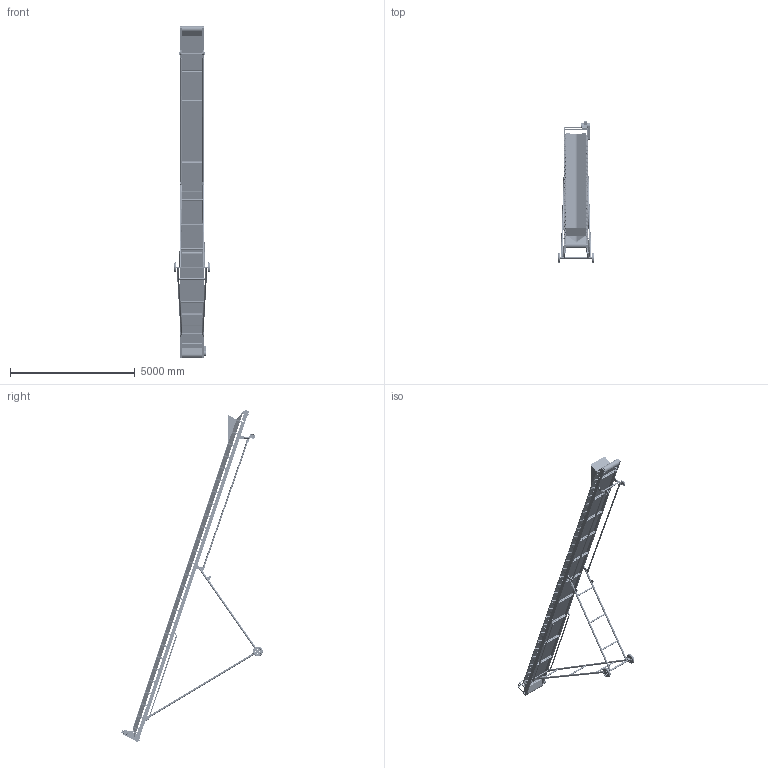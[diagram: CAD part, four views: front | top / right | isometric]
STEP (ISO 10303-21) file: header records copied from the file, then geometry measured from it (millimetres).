
FILE_DESCRIPTION(/* description */ (''),/* implementation_level */ '2;1');
FILE_NAME(/* name */ 'beltconveyor_a005_w820_l14000.stp',/* time_stamp */ '2024-12-14T22:22:47+08:00',/* author */ (''),/* organization */ (''),/* preprocessor_version */ 'ST-DEVELOPER v16.7',/* originating_system */ 'SIEMENS PLM Software NX 12.0',/* authorisation */ '');
FILE_SCHEMA (('AUTOMOTIVE_DESIGN { 1 0 10303 214 3 1 1 1 }'));
Products named in the file (64): 2510117-202; 2510117-203; 2510117-101-B; 2510117-205; 2510117-204; 2510117-106; 2510117-259; 2510117-261; 2510117-260; 2510117-264_Default_As Machined_; 2510117-265; AST_Bearings_UCT206; 2510117-162; 24210-30206_01; 24210-30206_02; 2510117-301; 2510117-257; 0027483_02; 0027483_09; 0027483_06; 0027483_07; 0027483_01; 0027483_08; 0027483_03; 0027483_04; 0027483_05; 0027483_10; 2510117-363; 10182525; 43005100; 2510117-267; 10583028; 2510117-258; 2510117-408; 2510117-415; 2510117-411; 2510117-407; 2510117-405; 2510117-413_Default_As Machined_; 2510117-410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
Assembly tree (147 placements, depth 5):
  beltconveyor_a005_w820_l14000
    2510117-401-A  x2
      2510117-403
      2510117-402_Default_As Machined_
    2510117-412  x2
    2510117-403-A
      2510117-409_Default1
      2510117-416  x2
      2510117-404  x2
      2510117-414_Default_As Machined_
      2510117-410  x2
      2510117-413_Default_As Machined_
      2510117-409
      2510117-405
    2510117-302
    2510117-409  x2
    2510117-402-A
      2510117-407  x2
      2510117-411  x2
      2510117-415
      2510117-408  x2
      0027483-Wheel  x2
        0027483_10
        0027483_05
        0027483_04
        0027483_03
        0027483_08
        0027483_01
        0027483_07
        0027483_06
        0027483_09
        0027483_02
    2510117-310-A
      2510117-203-A  x27
        2510117-201-A
          2510117-106  x2
          2510117-204
          2510117-205
        2510117-202-A
          2510117-101-B  x2
          2510117-203
          2510117-202
      2510117-258  x11
      10583028
      2510117-300-A
        2510117-257  x22
        2510117-301
        2510117-409  x8
      24210-30206  x2
        24210-30206_02
        24210-30206_01
      2510117-207-A  x2
        2510117-162
        AST_Bearings_UCT206
      2510117-206-A
        2510117-265  x2
        2510117-264_Default_As Machined_
      2510117-267
      2510117-204-A
        2510117-260
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Bounding box: 1442 x 5671.82 x 13316.65 mm (x, y, z)
Volume: 438738670.8 mm3; surface area: 104151334.2 mm2
Topology: 541 solids, 543 shells, 11053 faces, 24995 edges, 15571 vertices
Faces by surface type: plane 5400, cylinder 3757, torus 1135, cone 389, extrusion 246, bspline 126
Entity records: 106912 total; most frequent: CARTESIAN_POINT 34773, ORIENTED_EDGE 14658, DIRECTION 13884, EDGE_CURVE 7329, AXIS2_PLACEMENT_3D 4989, VERTEX_POINT 4708, VECTOR 3906, LINE 3660
